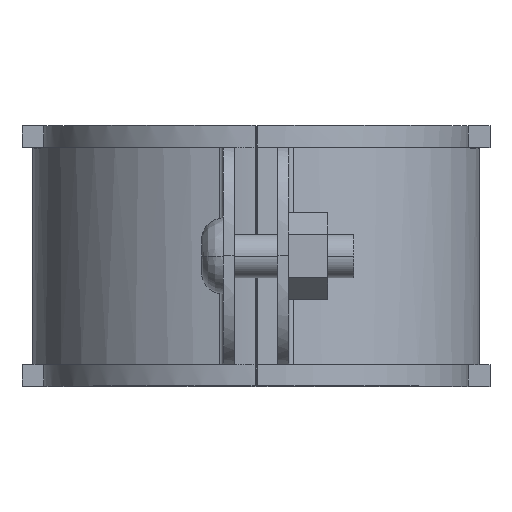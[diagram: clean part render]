
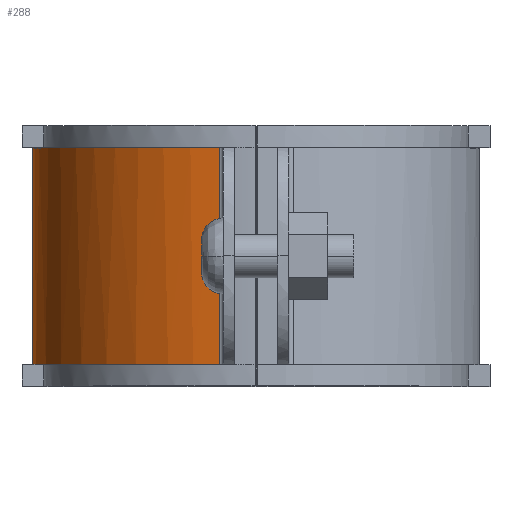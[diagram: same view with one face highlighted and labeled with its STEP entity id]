
A CAD part, top view. The second image highlights one B-rep face of the part: STEP entity #288.
In plain terms, the highlighted free-form (B-spline) face has degree [3, 1] with [4, 2] control points.
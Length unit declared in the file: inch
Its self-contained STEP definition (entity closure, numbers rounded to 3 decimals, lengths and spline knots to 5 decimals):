
#288=ADVANCED_FACE('',(#651),#652,.T.);
#651=FACE_OUTER_BOUND('',#1231,.T.);
#652=B_SPLINE_SURFACE_WITH_KNOTS('',3,1,((#1232,#1233),(#1234,#1235),(#1236,#1237),(#1238,#1239)),.UNSPECIFIED.,.F.,.F.,.F.,(4,4),(2,2),(-1.0,-0.0),(0.0,1.25),.UNSPECIFIED.);
#1231=EDGE_LOOP('',(#2325,#2326,#2327,#2328));
#1232=CARTESIAN_POINT('',(1.07223,1.25,3.28839));
#1233=CARTESIAN_POINT('',(1.07223,0.,3.28839));
#1234=CARTESIAN_POINT('',(0.46432,1.25,3.18667));
#1235=CARTESIAN_POINT('',(0.46432,0.,3.18667));
#1236=CARTESIAN_POINT('',(0.,1.25,2.65788));
#1237=CARTESIAN_POINT('',(0.,0.,2.65788));
#1238=CARTESIAN_POINT('',(0.,1.25,2.02075));
#1239=CARTESIAN_POINT('',(0.,0.,2.02075));
#2325=ORIENTED_EDGE('',*,*,#3393,.T.);
#2326=ORIENTED_EDGE('',*,*,#3350,.T.);
#2327=ORIENTED_EDGE('',*,*,#3187,.T.);
#2328=ORIENTED_EDGE('',*,*,#3394,.F.);
#3187=EDGE_CURVE('',#3724,#3722,#3725,.T.);
#3350=EDGE_CURVE('',#4002,#3724,#4003,.T.);
#3393=EDGE_CURVE('',#4070,#4002,#4071,.T.);
#3394=EDGE_CURVE('',#4070,#3722,#4072,.T.);
#3722=VERTEX_POINT('',#4504);
#3724=VERTEX_POINT('',#4508);
#3725=B_SPLINE_CURVE_WITH_KNOTS('',3,(#4509,#4510,#4511,#4512),.UNSPECIFIED.,.F.,.F.,(4,4),(0.0,1.0),.UNSPECIFIED.);
#4002=VERTEX_POINT('',#5017);
#4003=LINE('',#5018,#5019);
#4070=VERTEX_POINT('',#5126);
#4071=B_SPLINE_CURVE_WITH_KNOTS('',3,(#5127,#5128,#5129,#5130),.UNSPECIFIED.,.F.,.F.,(4,4),(-1.0,-0.0),.UNSPECIFIED.);
#4072=LINE('',#5131,#5132);
#4504=CARTESIAN_POINT('',(1.07223,0.,3.28839));
#4508=CARTESIAN_POINT('',(0.0,0.,2.02075));
#4509=CARTESIAN_POINT('',(0.0,0.,2.02075));
#4510=CARTESIAN_POINT('',(0.0,0.,2.65788));
#4511=CARTESIAN_POINT('',(0.46432,0.,3.18667));
#4512=CARTESIAN_POINT('',(1.07223,0.,3.28839));
#5017=CARTESIAN_POINT('',(0.0,1.24627,2.02075));
#5018=CARTESIAN_POINT('',(0.0,1.25,2.02075));
#5019=VECTOR('',#5893,1.0);
#5126=CARTESIAN_POINT('',(1.07223,1.24627,3.28839));
#5127=CARTESIAN_POINT('',(1.07223,1.24627,3.28839));
#5128=CARTESIAN_POINT('',(0.46432,1.24627,3.18667));
#5129=CARTESIAN_POINT('',(0.0,1.24627,2.65788));
#5130=CARTESIAN_POINT('',(0.0,1.24627,2.02075));
#5131=CARTESIAN_POINT('',(1.07223,1.25,3.28839));
#5132=VECTOR('',#5928,1.0);
#5893=DIRECTION('',(0.0,-1.0,0.0));
#5928=DIRECTION('',(0.0,-1.0,0.0));
